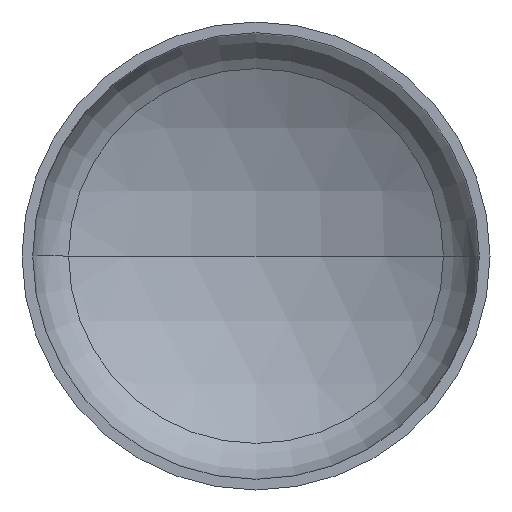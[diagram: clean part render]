
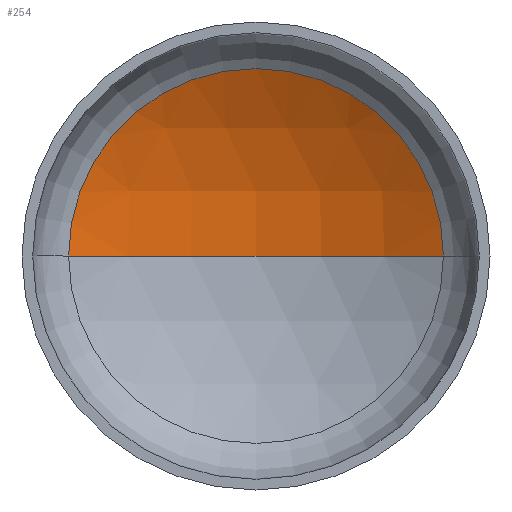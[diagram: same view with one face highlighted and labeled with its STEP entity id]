
A CAD part, front view. The second image highlights one B-rep face of the part: STEP entity #254.
In plain terms, the highlighted spherical face has radius 1120 mm.
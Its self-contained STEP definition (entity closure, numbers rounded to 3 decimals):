
#1 = AXIS2_PLACEMENT_3D ( 'NONE', #134, #140, #97 ) ;
#3 = AXIS2_PLACEMENT_3D ( 'NONE', #169, #110, #187 ) ;
#9 = EDGE_LOOP ( 'NONE', ( #78, #123, #56 ) ) ;
#13 = AXIS2_PLACEMENT_3D ( 'NONE', #41, #81, #396 ) ;
#29 = AXIS2_PLACEMENT_3D ( 'NONE', #53, #356, #283 ) ;
#41 = CARTESIAN_POINT ( 'NONE',  ( 0., -683.464, 0. ) ) ;
#53 = CARTESIAN_POINT ( 'NONE',  ( 0., 286.127, 0. ) ) ;
#56 = ORIENTED_EDGE ( 'NONE', *, *, #76, .T. ) ;
#76 = EDGE_CURVE ( 'NONE', #157, #115, #371, .T. ) ;
#78 = ORIENTED_EDGE ( 'NONE', *, *, #345, .F. ) ;
#81 = DIRECTION ( 'NONE',  ( 0., 0., -1. ) ) ;
#97 = DIRECTION ( 'NONE',  ( 1., 0., 0. ) ) ;
#110 = DIRECTION ( 'NONE',  ( 0., 0., -1. ) ) ;
#113 = VERTEX_POINT ( 'NONE', #402 ) ;
#115 = VERTEX_POINT ( 'NONE', #285 ) ;
#123 = ORIENTED_EDGE ( 'NONE', *, *, #343, .T. ) ;
#134 = CARTESIAN_POINT ( 'NONE',  ( 0., -683.464, 0. ) ) ;
#140 = DIRECTION ( 'NONE',  ( 0., 0., 1. ) ) ;
#157 = VERTEX_POINT ( 'NONE', #298 ) ;
#169 = CARTESIAN_POINT ( 'NONE',  ( 0., -683.464, 0. ) ) ;
#187 = DIRECTION ( 'NONE',  ( -1., 0., 0. ) ) ;
#210 = CIRCLE ( 'NONE', #1, 1120. ) ;
#254 = ADVANCED_FACE ( 'NONE', ( #350 ), #357, .F. ) ;
#283 = DIRECTION ( 'NONE',  ( 1., 0., 0. ) ) ;
#285 = CARTESIAN_POINT ( 'NONE',  ( -560.619, 286.127, 0. ) ) ;
#298 = CARTESIAN_POINT ( 'NONE',  ( 560.619, 286.127, 0. ) ) ;
#343 = EDGE_CURVE ( 'NONE', #113, #157, #394, .T. ) ;
#345 = EDGE_CURVE ( 'NONE', #113, #115, #210, .T. ) ;
#350 = FACE_OUTER_BOUND ( 'NONE', #9, .T. ) ;
#356 = DIRECTION ( 'NONE',  ( 0., -1., 0. ) ) ;
#357 = SPHERICAL_SURFACE ( 'NONE', #13, 1120. ) ;
#371 = CIRCLE ( 'NONE', #29, 560.619 ) ;
#394 = CIRCLE ( 'NONE', #3, 1120. ) ;
#396 = DIRECTION ( 'NONE',  ( -1., 0., 0. ) ) ;
#402 = CARTESIAN_POINT ( 'NONE',  ( 0., 436.536, 0. ) ) ;
